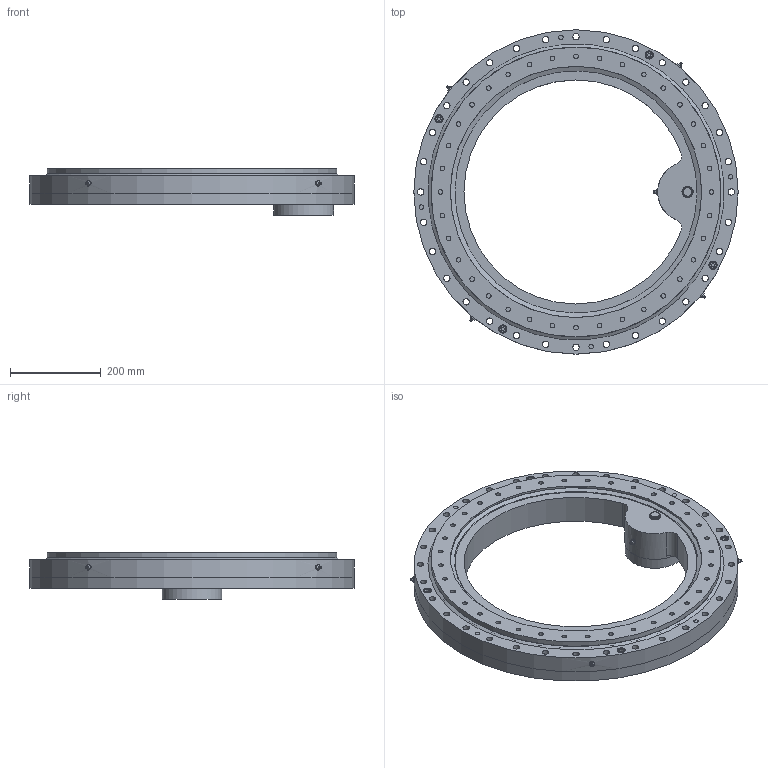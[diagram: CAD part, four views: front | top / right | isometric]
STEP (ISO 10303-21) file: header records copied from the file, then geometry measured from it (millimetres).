
FILE_DESCRIPTION(/* description */ ('STEP AP214'),/* implementation_level */ '2;1');
FILE_NAME(/* name */ '\\Serwer-ad\dnia$\dnia_tomasz_tb\Desktop\Tomcio\1. Cenniki + katalogi + materiały\U- Transmission\Katalogi 2023\Wersja NATECH DRV\Inner gear - slew drive\Our inner gear slew drive STEP\PT-L-0641-I-B-S.stp',/* time_stamp */ '2024-04-30T10:19:20+02:00',/* author */ ('dnia_tomasz_tb'),/* organization */ (''),/* preprocessor_version */ 'ST-DEVELOPER v19',/* originating_system */ 'Autodesk Inventor 2023',/* authorisation */ '');
FILE_SCHEMA (('AUTOMOTIVE_DESIGN { 1 0 10303 214 3 1 1 }'));
Length unit declared in the file: millimetre
Products named in the file (1): PT-L-0641-I-B-S
Bounding box: 715 x 715 x 103 mm (x, y, z)
Surface area: 1082085.4 mm2 (no closed solid volume)
Topology: 0 solids, 42 shells, 336 faces, 995 edges, 676 vertices
Faces by surface type: plane 156, cylinder 145, torus 19, cone 16
Full cylindrical faces by diameter (mm): 2 x2, 8.5 x4, 10 x4, 10.2 x40, 14 x32, 15 x8, 16 x32, 18 x4, 21 x1, 25 x1, 45 x1, 65 x1, 66 x1, 82.58 x1, 132 x1, 554 x1, 639 x1, 715 x2
Entity records: 12828 total; most frequent: CARTESIAN_POINT 2692, DIRECTION 2122, ORIENTED_EDGE 1639, EDGE_CURVE 992, AXIS2_PLACEMENT_3D 803, VERTEX_POINT 676, EDGE_LOOP 603, LINE 516
